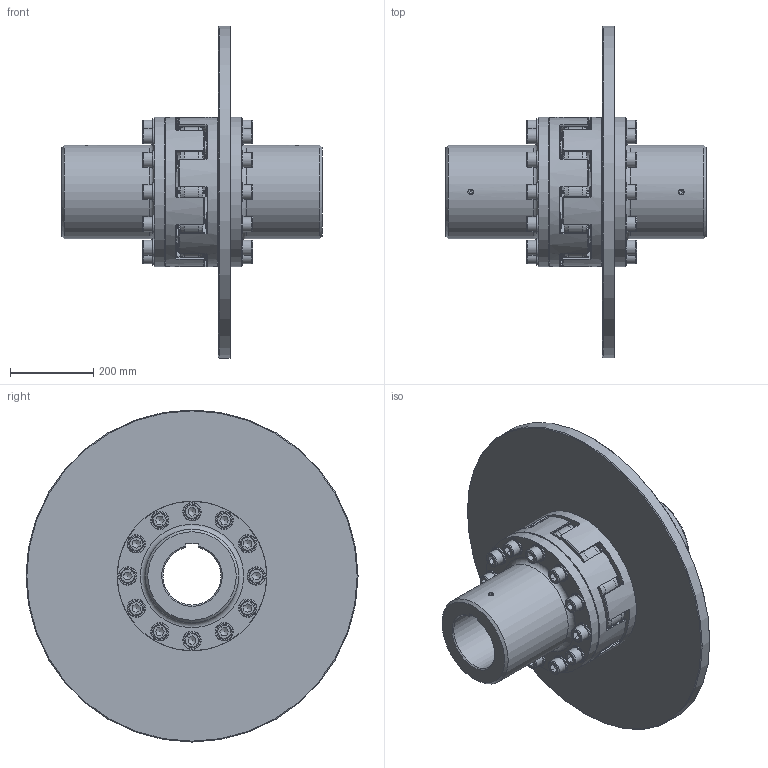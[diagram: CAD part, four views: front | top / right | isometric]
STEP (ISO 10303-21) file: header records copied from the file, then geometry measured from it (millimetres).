
FILE_DESCRIPTION(/* description */ (''),/* implementation_level */ '2;1');
FILE_NAME(/* name */ 'C:\Users\milman01\Desktop\step file\xxxxxx\46849.stp',/* time_stamp */ '2017-03-15T14:24:43+01:00',/* author */ ('milman01'),/* organization */ ('Hillmar Industries Ltd.'),/* preprocessor_version */ 'ST-DEVELOPER v16.1',/* originating_system */ 'Autodesk Inventor 2016',/* authorisation */ '');
FILE_SCHEMA (('AUTOMOTIVE_DESIGN { 1 0 10303 214 3 1 1 }'));
Length unit declared in the file: millimetre
Products named in the file (1): 46849_Shrinkwrap_1
Bounding box: 627.5 x 800 x 800 mm (x, y, z)
Volume: 36788503 mm3; surface area: 2581297.8 mm2
Topology: 1 solids, 27 shells, 1308 faces, 3053 edges, 1860 vertices
Faces by surface type: plane 469, cylinder 444, cone 234, torus 161
Full cylindrical faces by diameter (mm): 13.835 x2, 24 x48, 25 x24, 26 x24, 36 x24, 44 x24, 215 x3, 225 x2, 260 x4, 349 x2, 360 x4, 800 x1
Entity records: 36587 total; most frequent: CARTESIAN_POINT 6759, DIRECTION 6392, ORIENTED_EDGE 5254, AXIS2_PLACEMENT_3D 2712, EDGE_CURVE 2627, EDGE_LOOP 1798, VERTEX_POINT 1761, CIRCLE 1403
